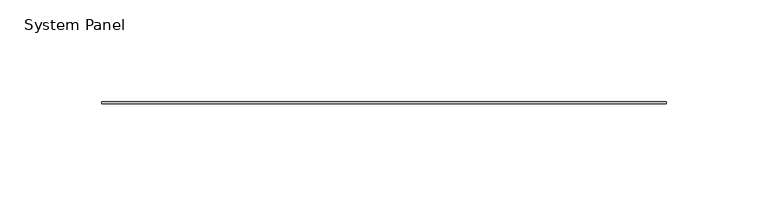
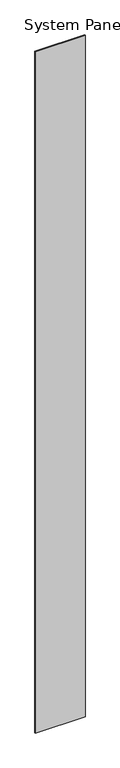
"""IFC4 building model written with IfcOpenShell, lengths in millimetres: plate geometry, System Panel : Stratco_Hiland_Interlock_Panel."""

from ifc_helpers import new_model, si_unit, origin, origin_with_axes, place, context, project, spatial, polyline, outline, extrude, source, transform, mapped, element, save


def system_panel_f6456e46(model_context):
    return source(origin(), model_context, "Body", "SweptSolid", [
        extrude(outline(polyline([(138.9514011, 24.0), (-138.9514011, 24.0), (-138.9514011, 25.0), (138.9514011, 25.0), (138.9514011, 24.0)])), origin_with_axes(), (0.0, 0.0, 1.0), 4000.0),
    ])


if __name__ == "__main__":
    model = new_model("IFC4")
    model_context = context("Model", 3, world=origin())
    ifc_project = project(units=[si_unit("LENGTHUNIT", "METRE", prefix="MILLI")], contexts=[model_context])
    site = spatial("IfcSite", under=ifc_project)
    building = spatial("IfcBuilding", under=site)
    placement = place(None, origin())
    system_panel_shape = system_panel_f6456e46(model_context)
    element("IfcPlate", 1, ObjectType="System Panel : Stratco_Hiland_Interlock_Panel", at=placement, inside=building, context=model_context, shape_type="MappedRepresentation", body=[
        mapped(system_panel_shape, transform((0.0, 0.0, 0.0), x_axis=(1.0, 0.0, 0.0), y_axis=(0.0, 1.0, 0.0), z_axis=(0.0, 0.0, 1.0))),
    ])
    save(model, "model.ifc")
